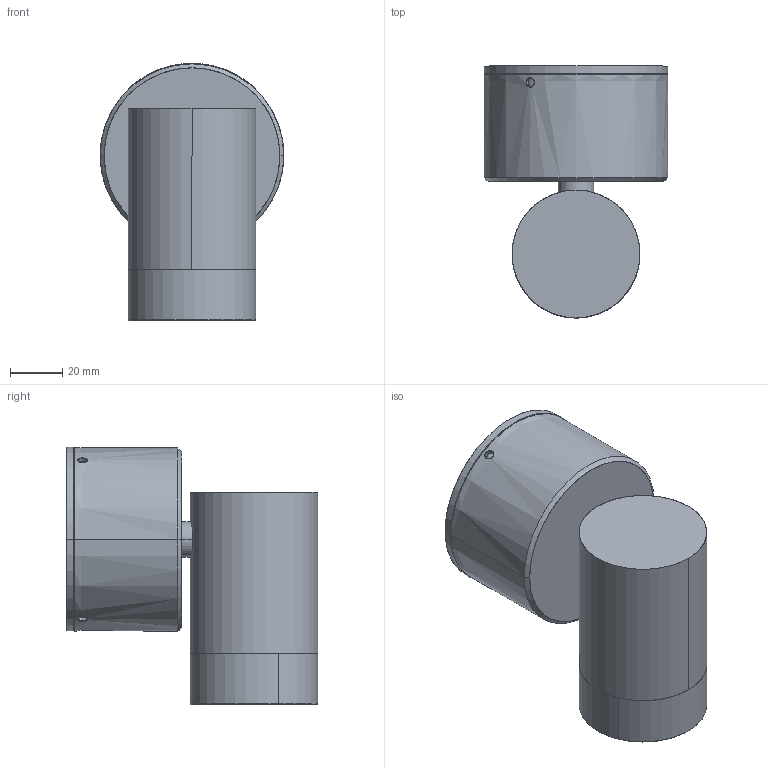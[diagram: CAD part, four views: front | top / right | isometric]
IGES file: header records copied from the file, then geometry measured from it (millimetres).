
Start section: SolidWorks IGES file using analytic representation for surfaces
Global section: file name: L:\Tecnico_PMT\R&D\PROGETTI ROADMAP 2020\001-OUTDOOR SPOTS\FAMIGLIA IP6X\LUX W\SOLIDWORKS\LUX W-S 3D.IGS; native system: SolidWorks 2016; preprocessor: SolidWorks 2016; author: MariaMancini; date: 210510.121633; units: millimetre
Bounding box: 70 x 96.01 x 98.07 mm (x, y, z)
Surface area: 65219.4 mm2 (no closed solid volume)
Topology: 0 solids, 0 shells, 83 faces, 2116 edges, 2114 vertices
Faces by surface type: revolution 58, bspline 25
